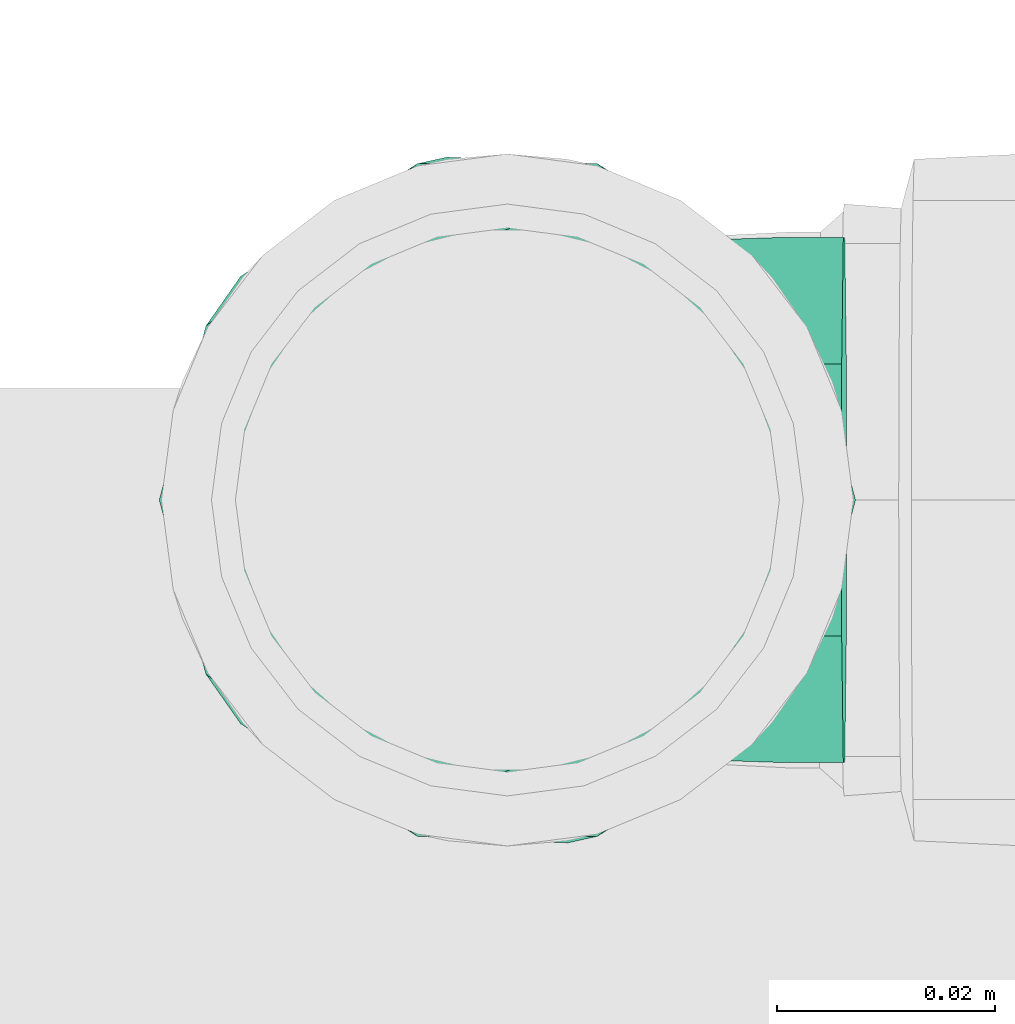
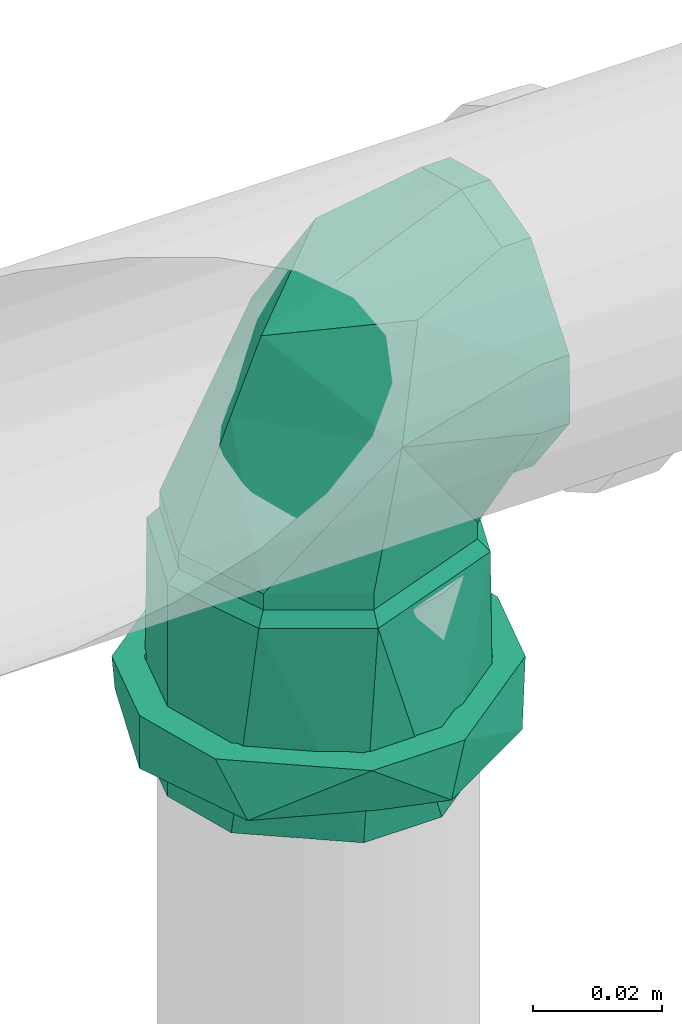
# One storey, part 121 of 589: 1 flow fitting.
"""IFC2X3 building model written with IfcOpenShell, lengths in millimetres."""

from ifc_helpers import new_model, entity, si_unit, converted_unit, derived_unit, direction, frame, origin, place, context, subcontext, project, spatial, faceted_brep, source, transform, mapped, material, type_object, type_shapes, element, save


model = new_model("IFC2X3")

# Units and contexts
model_context = context("Model", 3, precision=0.01, world=origin(), true_north=direction((6.123031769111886e-17, 1.0)))
body_context = subcontext(model_context, "Body", "Model", "MODEL_VIEW")
ifc_project = project(units=[si_unit("LENGTHUNIT", "METRE", prefix="MILLI"), si_unit("AREAUNIT", "SQUARE_METRE"), si_unit("VOLUMEUNIT", "CUBIC_METRE"), converted_unit("PLANEANGLEUNIT", "DEGREE", entity("IfcRatioMeasure", 0.017453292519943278), si_unit("PLANEANGLEUNIT", "RADIAN"), dimensions=[0, 0, 0, 0, 0, 0, 0]), si_unit("MASSUNIT", "GRAM", prefix="KILO"), derived_unit("MASSDENSITYUNIT", [(si_unit("MASSUNIT", "GRAM", prefix="KILO"), 1), (si_unit("LENGTHUNIT", "METRE"), -3)]), derived_unit("IONCONCENTRATIONUNIT", [(si_unit("MASSUNIT", "GRAM", prefix="KILO"), 1), (si_unit("LENGTHUNIT", "METRE"), -3)]), derived_unit("MOMENTOFINERTIAUNIT", [(si_unit("LENGTHUNIT", "METRE"), 4)]), si_unit("TIMEUNIT", "SECOND"), si_unit("FREQUENCYUNIT", "HERTZ"), si_unit("THERMODYNAMICTEMPERATUREUNIT", "DEGREE_CELSIUS"), derived_unit("THERMALTRANSMITTANCEUNIT", [(si_unit("MASSUNIT", "GRAM", prefix="KILO"), 1), (si_unit("THERMODYNAMICTEMPERATUREUNIT", "KELVIN"), -1), (si_unit("TIMEUNIT", "SECOND"), -3)]), derived_unit("THERMALCONDUCTANCEUNIT", [(si_unit("MASSUNIT", "GRAM", prefix="KILO"), 1), (si_unit("THERMODYNAMICTEMPERATUREUNIT", "KELVIN"), -1), (si_unit("TIMEUNIT", "SECOND"), -3), (si_unit("LENGTHUNIT", "METRE"), 1)]), derived_unit("VOLUMETRICFLOWRATEUNIT", [(si_unit("LENGTHUNIT", "METRE"), 3), (si_unit("TIMEUNIT", "SECOND"), -1)]), derived_unit("MASSFLOWRATEUNIT", [(si_unit("MASSUNIT", "GRAM", prefix="KILO"), 1), (si_unit("TIMEUNIT", "SECOND"), -1)]), derived_unit("ROTATIONALFREQUENCYUNIT", [(si_unit("TIMEUNIT", "SECOND"), -1)]), si_unit("ELECTRICCURRENTUNIT", "AMPERE"), si_unit("ELECTRICVOLTAGEUNIT", "VOLT"), si_unit("POWERUNIT", "WATT"), si_unit("FORCEUNIT", "NEWTON", prefix="KILO"), si_unit("ILLUMINANCEUNIT", "LUX"), si_unit("LUMINOUSFLUXUNIT", "LUMEN"), si_unit("LUMINOUSINTENSITYUNIT", "CANDELA"), derived_unit("USERDEFINED", [(si_unit("MASSUNIT", "GRAM", prefix="KILO"), -1), (si_unit("LENGTHUNIT", "METRE"), -2), (si_unit("TIMEUNIT", "SECOND"), 3), (si_unit("LUMINOUSFLUXUNIT", "LUMEN"), 1)]), derived_unit("USERDEFINED", [(si_unit("MASSUNIT", "GRAM", prefix="KILO"), 1), (si_unit("TIMEUNIT", "SECOND"), -3), (si_unit("LENGTHUNIT", "METRE"), 3), (si_unit("ELECTRICCURRENTUNIT", "AMPERE"), -2)]), derived_unit("SOUNDPOWERUNIT", [(si_unit("MASSUNIT", "GRAM", prefix="KILO"), 1), (si_unit("TIMEUNIT", "SECOND"), -3), (si_unit("LENGTHUNIT", "METRE"), 2)]), derived_unit("SOUNDPRESSUREUNIT", [(si_unit("MASSUNIT", "GRAM", prefix="KILO"), 1), (si_unit("LENGTHUNIT", "METRE"), -1), (si_unit("TIMEUNIT", "SECOND"), -2)]), derived_unit("LINEARVELOCITYUNIT", [(si_unit("LENGTHUNIT", "METRE"), 1), (si_unit("TIMEUNIT", "SECOND"), -1)]), si_unit("PRESSUREUNIT", "PASCAL"), derived_unit("USERDEFINED", [(si_unit("MASSUNIT", "GRAM", prefix="KILO"), 1), (si_unit("LENGTHUNIT", "METRE"), -2), (si_unit("TIMEUNIT", "SECOND"), -2)]), derived_unit("LINEARFORCEUNIT", [(si_unit("MASSUNIT", "GRAM", prefix="KILO"), 1), (si_unit("TIMEUNIT", "SECOND"), -2)]), derived_unit("PLANARFORCEUNIT", [(si_unit("MASSUNIT", "GRAM", prefix="KILO"), 1), (si_unit("LENGTHUNIT", "METRE"), -1), (si_unit("TIMEUNIT", "SECOND"), -2)]), derived_unit("SPECIFICHEATCAPACITYUNIT", [(si_unit("THERMODYNAMICTEMPERATUREUNIT", "KELVIN"), -1), (si_unit("LENGTHUNIT", "METRE"), 2), (si_unit("TIMEUNIT", "SECOND"), -2)]), derived_unit("HEATINGVALUEUNIT", [(si_unit("LENGTHUNIT", "METRE"), 2), (si_unit("TIMEUNIT", "SECOND"), -2)]), derived_unit("VAPORPERMEABILITYUNIT", [(si_unit("LENGTHUNIT", "METRE"), -1), (si_unit("TIMEUNIT", "SECOND"), 1)]), derived_unit("DYNAMICVISCOSITYUNIT", [(si_unit("MASSUNIT", "GRAM", prefix="KILO"), 1), (si_unit("TIMEUNIT", "SECOND"), -1), (si_unit("LENGTHUNIT", "METRE"), -1)]), derived_unit("THERMALEXPANSIONCOEFFICIENTUNIT", [(si_unit("THERMODYNAMICTEMPERATUREUNIT", "KELVIN"), -1)]), derived_unit("MODULUSOFELASTICITYUNIT", [(si_unit("MASSUNIT", "GRAM", prefix="KILO"), 1), (si_unit("LENGTHUNIT", "METRE"), -1), (si_unit("TIMEUNIT", "SECOND"), -2)]), derived_unit("ISOTHERMALMOISTURECAPACITYUNIT", [(si_unit("LENGTHUNIT", "METRE"), 3), (si_unit("MASSUNIT", "GRAM", prefix="KILO"), -1)]), derived_unit("MOISTUREDIFFUSIVITYUNIT", [(si_unit("TIMEUNIT", "SECOND"), -1), (si_unit("LENGTHUNIT", "METRE"), 2)])], contexts=[model_context])

# Site, building, storey
site_placement = place(None, origin())
site = spatial("IfcSite", under=ifc_project, at=site_placement, Name="Default", CompositionType="ELEMENT")
building_placement = place(site_placement, origin())
building = spatial("IfcBuilding", under=site, at=building_placement, CompositionType="ELEMENT")
storey_placement = place(building_placement, frame((0.0, 0.0, 100.0)))
storey = spatial("IfcBuildingStorey", under=building, at=storey_placement, Name="TÉRREO", CompositionType="ELEMENT", Elevation=100.0)

# Flow fitting
ifc_material = material(Name="PVC Série Normal")
pipe_fitting_type = type_object("IfcPipeFittingType", Name="PVC Esgoto_Joelho 45_90_Rodrigo MEP:a. Série Normal", PredefinedType="NOTDEFINED", material=ifc_material)
shared_shape = source(origin(), body_context, "Body", "Brep", [
    faceted_brep([(-6.212752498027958, 25.804714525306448, 24.14814565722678), (-21.392152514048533, 25.95650852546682, 12.500000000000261), (-24.741349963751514, 25.990000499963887, 0.0), (-21.392152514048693, 25.956508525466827, -12.499999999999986), (-6.21275249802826, 25.804714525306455, -24.1481456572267), (6.727552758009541, 25.675311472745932, -24.14814565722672), (21.906952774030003, 25.52351747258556, -12.500000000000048), (25.256150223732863, 25.490025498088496, 0.0), (21.906952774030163, 25.52351747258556, 12.499999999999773), (6.7275527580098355, 25.675311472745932, 24.148145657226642), (25.308147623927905, 30.689765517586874, 0.0), (21.958950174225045, 30.72325749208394, -12.500000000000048), (6.779550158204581, 30.87505149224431, -24.14814565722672), (-6.160755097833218, 31.004454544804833, -24.1481456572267), (-21.34015511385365, 31.156248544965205, -12.499999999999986), (-24.689352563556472, 31.18974051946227, 0.0), (-21.340155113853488, 31.1562485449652, 12.500000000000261), (-6.160755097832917, 31.00445454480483, 24.14814565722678), (6.779550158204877, 30.87505149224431, 24.148145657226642), (21.958950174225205, 30.72325749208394, 12.499999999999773)], [[[0, 1, 2, 3, 4, 5, 6, 7, 8, 9]], [[10, 11, 12, 13, 14, 15, 16, 17, 18, 19]], [[7, 10, 19, 8]], [[8, 19, 18, 9]], [[18, 17, 0, 9]], [[0, 17, 16, 1]], [[1, 16, 15, 2]], [[2, 15, 14, 3]], [[3, 14, 13, 4]], [[13, 12, 5, 4]], [[5, 12, 11, 6]], [[6, 11, 10, 7]]]),
    faceted_brep([(-70.94129996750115, -6.988114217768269, -26.07999730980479), (-70.94129996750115, -6.47047612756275, -24.14814565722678), (-70.94129996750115, 6.4704761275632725, -24.148145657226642), (-70.94129996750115, -23.382685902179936, -13.499999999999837), (-70.94129996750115, 6.988114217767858, -26.0799973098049), (-70.94129996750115, -21.650635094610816, -12.500000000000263), (-70.94129996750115, -25.0, 0.0), (-70.94129996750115, -27.0, 0.0), (-70.94129996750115, -21.650635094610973, 12.499999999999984), (-70.94129996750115, -23.382685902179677, 13.500000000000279), (-70.94129996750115, -6.470476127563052, 24.1481456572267), (-70.94129996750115, -6.98811421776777, 26.079997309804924), (-70.94129996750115, 6.470476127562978, 24.14814565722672), (-70.94129996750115, 6.988114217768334, 26.07999730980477), (-70.94129996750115, 21.650635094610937, 12.500000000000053), (-70.94129996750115, 23.38268590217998, 13.499999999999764), (-70.94129996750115, 27.0, 0.0), (-70.94129996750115, 25.0, 0.0), (-70.94129996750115, 23.382685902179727, -13.500000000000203), (-70.94129996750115, 21.6506350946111, -12.499999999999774), (-30.94129996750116, 21.650635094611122, -12.499999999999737), (-30.94129996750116, 25.0, 0.0), (-30.94129996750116, 6.4704761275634, -24.148145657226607), (-30.94129996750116, -6.470476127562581, -24.148145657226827), (-30.94129996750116, -21.650635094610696, -12.500000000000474), (-30.94129996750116, -25.0, 0.0), (-30.94129996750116, -21.65063509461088, 12.500000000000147), (-30.94129996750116, -6.470476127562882, 24.14814565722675), (-30.94129996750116, 6.470476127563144, 24.148145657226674), (-30.94129996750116, 21.650635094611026, 12.499999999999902), (-30.94129996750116, 27.0, 0.0), (-30.941299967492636, 20.682232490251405, 17.356418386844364), (-30.94129996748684, 4.685536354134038, 26.59033187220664), (-30.94129996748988, -20.686585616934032, 17.35122979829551), (-30.94129996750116, -27.0, 0.0), (-30.941299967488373, -8.000524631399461, 21.970780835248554), (-30.94129996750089, -20.686585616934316, -17.35122979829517), (-30.9412999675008, -4.6922062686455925, -26.589155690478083), (-30.94129996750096, 20.682232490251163, -17.356418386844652), (-30.94129996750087, 7.995013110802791, -21.97278703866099), (-28.74129996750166, -4.338459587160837, -24.62067765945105), (-28.741299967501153, 25.0, 0.0), (-28.741299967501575, 19.154245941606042, -16.065953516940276), (-28.741299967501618, 7.407893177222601, -20.34331558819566), (-28.741299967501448, -19.15021526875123, -16.070757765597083), (-28.741299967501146, -25.0, 0.0), (-28.741299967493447, -19.150215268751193, 16.07075776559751), (-28.741299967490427, -7.402789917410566, 20.345173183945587), (-28.74129996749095, 19.15424594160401, 16.065953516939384), (-28.741299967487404, 4.344635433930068, 24.619588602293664), (-25.741299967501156, 25.0, 0.0), (-25.741299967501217, 19.151286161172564, 16.069481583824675), (-25.741299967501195, 4.341396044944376, 24.62016003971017), (-25.741299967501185, -7.404832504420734, 20.344954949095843), (-25.741299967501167, -19.15106105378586, 16.069749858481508), (-25.741299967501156, -25.0, 0.0), (-25.741299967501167, -19.15106105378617, -16.069749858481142), (-25.741299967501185, -4.341051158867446, -24.62022085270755), (-25.741299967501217, 19.15128616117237, -16.069481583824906), (-25.7412999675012, 7.405117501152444, -20.344851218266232), (-6.212752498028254, 25.80471452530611, -24.1481456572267), (-21.39215251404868, 25.95650852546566, -12.499999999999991), (-24.74134996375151, 25.990000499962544, 0.0), (-21.3921525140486, 25.956508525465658, 12.500000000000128), (-6.2127524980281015, 25.80471452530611, 24.14814565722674), (6.7275527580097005, 25.67531147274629, 24.148145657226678), (21.906952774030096, 25.52351747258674, 12.499999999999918), (25.256150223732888, 25.490025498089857, 0.0), (21.90695277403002, 25.523517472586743, -12.500000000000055), (6.727552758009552, 25.67531147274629, -24.14814565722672), (-0.83580225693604, 1.5246716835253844, 23.354962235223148), (-3.2027279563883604, -15.730161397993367, 0.0), (10.140389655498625, -10.242300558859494, 0.0), (16.135012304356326, 8.632944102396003, 15.848254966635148), (-25.03773742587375, 25.289366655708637, 0.0), (15.761400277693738, 3.0452732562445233, 0.0), (16.135011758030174, 8.632944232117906, -15.848255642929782), (-0.8751695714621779, 1.433288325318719, -23.341145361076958)], [[[0, 1, 2]], [[1, 0, 3]], [[2, 4, 0]], [[3, 5, 1]], [[3, 6, 5]], [[6, 3, 7]], [[8, 6, 7]], [[8, 7, 9]], [[9, 10, 8]], [[9, 11, 10]], [[10, 11, 12]], [[13, 12, 11]], [[13, 14, 12]], [[14, 13, 15]], [[16, 14, 15]], [[17, 14, 16]], [[18, 17, 16]], [[18, 19, 17]], [[19, 18, 4]], [[4, 2, 19]], [[20, 21, 17, 19]], [[22, 20, 19, 2]], [[2, 1, 23, 22]], [[24, 23, 1, 5]], [[25, 24, 5, 6]], [[26, 25, 6, 8]], [[27, 26, 8, 10]], [[10, 12, 28, 27]], [[29, 28, 12, 14]], [[21, 29, 14, 17]], [[16, 15, 30]], [[15, 31, 30]], [[31, 15, 13]], [[31, 13, 32]], [[33, 11, 9]], [[34, 9, 7]], [[11, 33, 35, 32]], [[33, 9, 34]], [[11, 32, 13]], [[7, 3, 34]], [[3, 36, 34]], [[36, 3, 0]], [[36, 0, 37]], [[38, 4, 18]], [[30, 18, 16]], [[4, 38, 39, 37]], [[38, 18, 30]], [[4, 37, 0]], [[28, 29, 21, 20, 22, 23, 24, 25, 26, 27]], [[39, 40, 37]], [[41, 42, 30]], [[30, 42, 38]], [[38, 43, 39]], [[44, 45, 36]], [[38, 42, 43]], [[36, 37, 44]], [[34, 36, 45]], [[40, 39, 43]], [[44, 37, 40]], [[45, 46, 33]], [[33, 34, 45]], [[46, 35, 33]], [[46, 47, 35]], [[47, 32, 35]], [[48, 41, 30]], [[48, 31, 49]], [[31, 48, 30]], [[32, 47, 49]], [[49, 31, 32]], [[41, 48, 50]], [[48, 51, 50]], [[51, 48, 49]], [[51, 49, 52]], [[52, 47, 53]], [[46, 54, 53]], [[46, 45, 54]], [[49, 47, 52]], [[54, 45, 55]], [[47, 46, 53]], [[45, 44, 56]], [[45, 56, 55]], [[56, 44, 57]], [[58, 59, 43]], [[44, 40, 57]], [[40, 59, 57]], [[58, 43, 42]], [[42, 50, 58]], [[50, 42, 41]], [[59, 40, 43]], [[60, 61, 62, 63, 64, 65, 66, 67, 68, 69]], [[52, 70, 51]], [[54, 71, 70]], [[70, 52, 53, 54]], [[72, 73, 70]], [[50, 63, 74]], [[51, 63, 50]], [[54, 55, 71]], [[72, 70, 71]], [[75, 67, 66]], [[65, 70, 73]], [[73, 75, 66]], [[74, 63, 62]], [[73, 66, 65]], [[63, 51, 64]], [[70, 64, 51]], [[73, 72, 75]], [[65, 64, 70]], [[72, 76, 75]], [[71, 55, 56]], [[77, 58, 60]], [[77, 57, 59, 58]], [[77, 71, 56]], [[56, 57, 77]], [[77, 69, 76]], [[58, 50, 61]], [[74, 62, 61]], [[71, 77, 72]], [[61, 60, 58]], [[68, 75, 76]], [[68, 67, 75]], [[72, 77, 76]], [[76, 69, 68]], [[60, 69, 77]], [[61, 50, 74]]]),
    faceted_brep([(-53.94129996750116, 6.9881142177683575, -26.07999730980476), (-53.94129996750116, -6.988114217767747, -26.079997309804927), (-53.94129996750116, -8.282209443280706, -30.909626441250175), (-53.94129996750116, 8.28220944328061, -30.9096264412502), (-53.94129996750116, 23.38268590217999, -13.499999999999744), (-53.94129996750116, -27.712812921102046, -16.0), (-53.94129996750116, -23.38268590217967, -13.500000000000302), (-53.94129996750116, -27.0, 0.0), (-53.94129996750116, -32.0, 0.0), (-53.94129996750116, -23.382685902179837, 13.500000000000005), (-53.94129996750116, -27.712812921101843, 16.0), (-53.94129996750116, -6.988114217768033, 26.07999730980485), (-53.94129996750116, -8.28220944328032, 30.909626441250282), (-53.94129996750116, 6.988114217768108, 26.07999730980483), (-53.94129996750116, 8.282209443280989, 30.909626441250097), (-53.94129996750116, 23.382685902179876, 13.499999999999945), (-53.94129996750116, 27.712812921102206, 16.0), (-53.94129996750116, 32.0, 0.0), (-53.94129996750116, 27.0, 0.0), (-53.94129996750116, 27.712812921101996, -16.0), (-63.94129996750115, 27.0, 0.0), (-65.24129996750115, 27.0, 0.0), (-63.94129996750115, 25.191342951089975, -6.750000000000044), (-63.94129996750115, 23.38268590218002, -13.499999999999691), (-63.94129996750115, 19.284042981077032, -16.644999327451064), (-63.94129996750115, 15.185400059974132, -19.789998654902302), (-63.94129996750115, 11.086757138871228, -22.934997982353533), (-63.94129996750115, 6.988114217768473, -26.07999730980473), (-63.94129996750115, 0.0, -26.079997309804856), (-63.94129996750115, -6.988114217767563, -26.079997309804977), (-63.94129996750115, -11.086757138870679, -22.934997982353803), (-63.94129996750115, -15.185400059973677, -19.789998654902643), (-63.94129996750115, -19.284042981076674, -16.644999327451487), (-63.94129996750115, -23.382685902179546, -13.50000000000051), (-63.94129996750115, -25.191342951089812, -6.750000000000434), (-65.24129996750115, -27.0, 0.0), (-63.94129996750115, -27.0, 0.0), (-63.94129996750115, -25.19134295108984, 6.750000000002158), (-63.94129996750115, -23.382685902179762, 13.500000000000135), (-63.94129996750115, -19.284042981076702, 16.64499932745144), (-63.94129996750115, -15.185400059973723, 19.7899986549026), (-63.94129996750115, -11.086757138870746, 22.934997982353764), (-63.94129996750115, -6.988114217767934, 26.079997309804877), (-63.94129996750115, 0.0, 26.079997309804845), (-63.94129996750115, 6.988114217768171, 26.079997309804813), (-63.94129996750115, 11.086757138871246, 22.93499798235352), (-63.94129996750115, 15.185400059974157, 19.789998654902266), (-63.94129996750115, 19.284042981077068, 16.644999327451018), (-63.94129996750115, 23.382685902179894, 13.499999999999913), (-63.94129996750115, 25.19134295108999, 6.74999999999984), (-63.94129996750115, 32.0, 0.0), (-63.94129996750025, 24.512275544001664, 20.570569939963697), (-63.94129996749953, -5.561133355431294, 31.51307341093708), (-63.94129996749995, -24.51743480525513, 20.56442050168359), (-63.94129996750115, -32.0, 0.0), (-63.9412999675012, -24.51743480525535, -20.564420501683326), (-63.941299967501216, 5.553228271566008, -31.514467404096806), (-63.94129996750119, 24.512275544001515, -20.570569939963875), (-65.2412999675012, -23.84329280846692, -8.675614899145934), (-65.24129996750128, -20.686585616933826, -17.351229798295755), (-65.24129996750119, 23.841116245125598, -8.678209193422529), (-65.24129996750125, 20.6822324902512, -17.356418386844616), (-65.24129996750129, -12.689395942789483, -21.970192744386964), (-65.24129996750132, -4.692206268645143, -26.589155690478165), (-65.24129996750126, 14.338622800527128, -19.664602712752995), (-65.24129996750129, 1.6514034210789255, -24.280971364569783), (-65.24129996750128, 7.995013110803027, -21.97278703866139), (-65.24129996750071, 23.84111624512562, 8.678209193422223), (-65.24129996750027, 20.68223249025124, 17.35641838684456), (-65.24129996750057, -23.843292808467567, 8.675614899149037), (-65.24129996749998, -20.68658561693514, 17.351229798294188), (-65.24129996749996, 12.683884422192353, 21.973375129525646), (-65.24129996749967, 4.685536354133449, 26.590331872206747), (-65.2412999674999, -14.343555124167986, 19.66100531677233), (-65.24129996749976, -1.6574941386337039, 24.280556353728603), (-65.24129996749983, -8.000524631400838, 21.97078083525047)], [[[0, 1, 2]], [[2, 3, 0]], [[4, 0, 3]], [[5, 2, 1]], [[1, 6, 5]], [[6, 7, 5]], [[8, 5, 7]], [[8, 7, 9]], [[10, 8, 9]], [[9, 11, 10]], [[11, 12, 10]], [[13, 12, 11]], [[12, 13, 14]], [[13, 15, 14]], [[16, 14, 15]], [[16, 15, 17]], [[17, 15, 18]], [[18, 4, 19]], [[17, 18, 19]], [[3, 19, 4]], [[4, 18, 20, 21, 22, 23]], [[0, 4, 23, 24, 25, 26, 27]], [[0, 27, 28, 29, 1]], [[6, 1, 29, 30, 31, 32, 33]], [[7, 6, 33, 34, 35, 36]], [[9, 7, 36, 35, 37, 38]], [[11, 9, 38, 39, 40, 41, 42]], [[11, 42, 43, 44, 13]], [[15, 13, 44, 45, 46, 47, 48]], [[18, 15, 48, 49, 21, 20]], [[50, 51, 16]], [[50, 16, 17]], [[16, 51, 14]], [[51, 52, 14]], [[12, 52, 53]], [[10, 53, 54]], [[53, 10, 12]], [[10, 54, 8]], [[52, 12, 14]], [[54, 55, 5]], [[54, 5, 8]], [[5, 55, 2]], [[55, 56, 2]], [[3, 56, 57]], [[19, 57, 50]], [[57, 19, 3]], [[19, 50, 17]], [[56, 3, 2]], [[58, 33, 59]], [[23, 60, 61]], [[32, 31, 59, 33]], [[30, 29, 62, 31]], [[24, 23, 61, 25]], [[29, 28, 63]], [[26, 25, 64]], [[65, 63, 28]], [[31, 62, 59]], [[63, 62, 29]], [[60, 22, 21]], [[34, 58, 35]], [[66, 26, 64]], [[28, 27, 65]], [[27, 66, 65]], [[27, 26, 66]], [[64, 25, 61]], [[34, 33, 58]], [[60, 23, 22]], [[67, 48, 68]], [[38, 69, 70]], [[47, 46, 68, 48]], [[45, 44, 71, 46]], [[39, 38, 70, 40]], [[44, 43, 72]], [[41, 40, 73]], [[74, 72, 43]], [[46, 71, 68]], [[72, 71, 44]], [[69, 37, 35]], [[49, 67, 21]], [[75, 41, 73]], [[43, 42, 74]], [[42, 75, 74]], [[42, 41, 75]], [[73, 40, 70]], [[49, 48, 67]], [[69, 38, 37]], [[54, 35, 58, 59, 55]], [[55, 59, 62, 63]], [[55, 63, 56]], [[57, 61, 60, 21, 50]], [[57, 56, 61]], [[56, 63, 65, 66, 64, 61]], [[50, 21, 67, 68, 51]], [[51, 68, 71, 72]], [[51, 72, 52]], [[53, 70, 69, 35, 54]], [[53, 52, 70]], [[52, 72, 74, 75, 73, 70]]]),
])
type_shapes(pipe_fitting_type, [shared_shape])
flow_fitting_placement = place(storey_placement, frame((4580.934778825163, -509.1682332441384, 2983.3999999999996), z_axis=(0.0, 1.0, 0.0), x_axis=(0.0, 0.0, 1.0)))
element("IfcFlowFitting", 1, at=flow_fitting_placement, inside=storey, type_object=pipe_fitting_type, material=ifc_material, Name="PVC Esgoto_Joelho 45_90_Rodrigo MEP:a. Série Normal", ObjectType="PVC Esgoto_Joelho 45_90_Rodrigo MEP:a. Série Normal", context=body_context, shape_type="MappedRepresentation", body=[
    mapped(shared_shape, transform((0.0, 0.0, 0.0), scale=1.0)),
])

save(model, "model.ifc")
